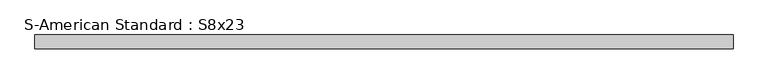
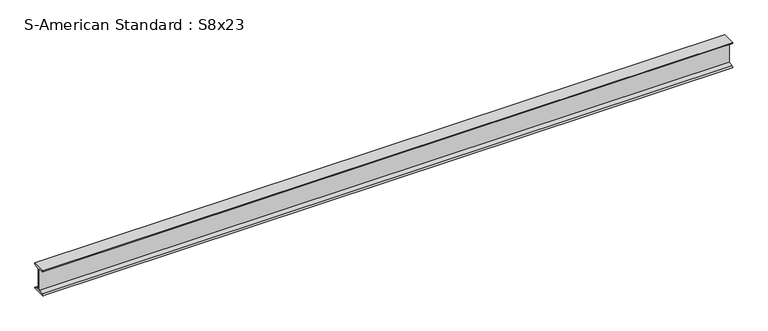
"""IFC4 building model written with IfcOpenShell, lengths in millimetres: beam geometry, S-American Standard : S8x23."""

from ifc_helpers import new_model, si_unit, point, frame, frame_2d, origin, place, context, project, spatial, polyline, circle_curve, trimmed, segment, composite_curve, outline, extrude, source, transform, mapped, element, save


def s_american_standard_s8x23_70d94375(model_context):
    return source(origin(), model_context, "Body", "SweptSolid", [
        extrude(outline(composite_curve([segment(polyline([(-52.9828125, 101.6), (52.9828125, 101.6)]), True, "CONTINUOUS"), segment(trimmed(circle_curve(frame_2d((42.1679687, 101.6)), 10.8148438), [point((52.9828125, 101.6))], [point((42.1679687, 90.7851562))], False, "CARTESIAN"), True, "CONTINUOUS"), segment(polyline([(42.1679687, 90.7851562), (5.6058594, 84.994287), (5.6058594, -84.994287), (42.1679687, -90.7851563)]), True, "CONTINUOUS"), segment(trimmed(circle_curve(frame_2d((42.1679687, -101.6)), 10.8148437), [point((42.1679687, -90.7851563))], [point((52.9828125, -101.6))], False, "CARTESIAN"), True, "CONTINUOUS"), segment(polyline([(52.9828125, -101.6), (-52.9828125, -101.6)]), True, "CONTINUOUS"), segment(trimmed(circle_curve(frame_2d((-42.1679688, -101.6)), 10.8148438), [point((-52.9828125, -101.6))], [point((-42.1679688, -90.7851563))], False, "CARTESIAN"), True, "CONTINUOUS"), segment(polyline([(-42.1679688, -90.7851563), (-5.6058594, -84.994287), (-5.6058594, 84.994287), (-42.1679688, 90.7851562)]), True, "CONTINUOUS"), segment(trimmed(circle_curve(frame_2d((-42.1679688, 101.6)), 10.8148437), [point((-42.1679688, 90.7851562))], [point((-52.9828125, 101.6))], False, "CARTESIAN"), True, "CONTINUOUS")], self_intersect=False)), frame((-2623.46429, 0.0, 0.0), z_axis=(1.0, 0.0, 0.0), x_axis=(0.0, 1.0, 0.0)), (0.0, 0.0, 1.0), 5319.187457),
    ])


if __name__ == "__main__":
    model = new_model("IFC4")
    model_context = context("Model", 3, world=origin())
    ifc_project = project(units=[si_unit("LENGTHUNIT", "METRE", prefix="MILLI")], contexts=[model_context])
    site = spatial("IfcSite", under=ifc_project)
    building = spatial("IfcBuilding", under=site)
    placement = place(None, origin())
    s_american_standard_s8x23_shape = s_american_standard_s8x23_70d94375(model_context)
    element("IfcBeam", 1, ObjectType="S-American Standard : S8x23", at=placement, inside=building, context=model_context, shape_type="MappedRepresentation", body=[
        mapped(s_american_standard_s8x23_shape, transform((0.0, 0.0, 0.0), x_axis=(1.0, 0.0, 0.0), y_axis=(0.0, 1.0, 0.0), z_axis=(0.0, 0.0, 1.0))),
    ])
    save(model, "model.ifc")
